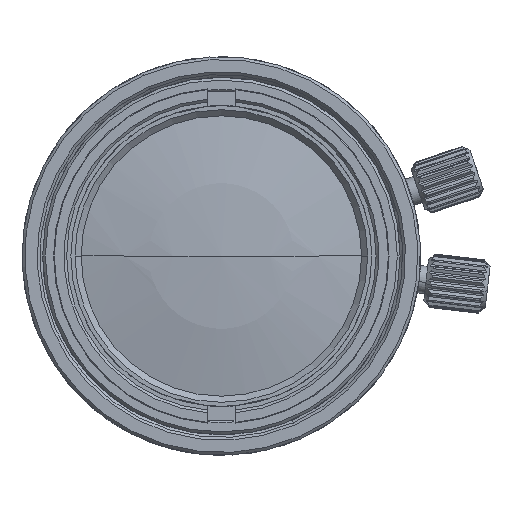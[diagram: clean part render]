
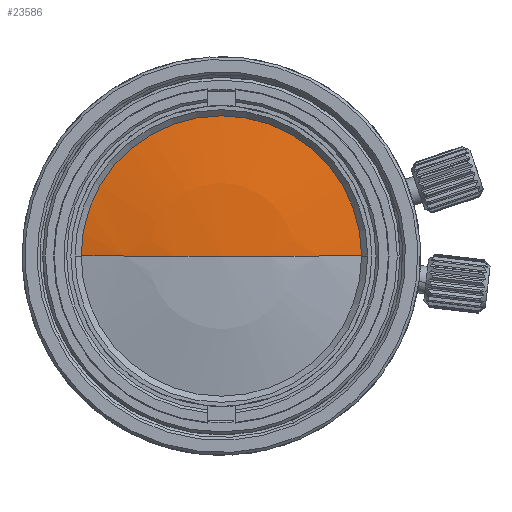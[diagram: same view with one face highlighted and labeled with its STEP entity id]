
A CAD part, left-side view. The second image highlights one B-rep face of the part: STEP entity #23586.
In plain terms, the highlighted spherical face has radius 51.573 mm.
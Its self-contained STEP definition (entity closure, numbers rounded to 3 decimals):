
#2636=CARTESIAN_POINT('',(-2.517,0.,0.));
#2637=DIRECTION('',(0.,0.,-1.));
#2638=DIRECTION('',(-1.,0.,0.));
#2639=AXIS2_PLACEMENT_3D('',#2636,#2637,#2638);
#2641=CARTESIAN_POINT('',(-53.005,0.,0.));
#2642=DIRECTION('',(1.,0.,0.));
#2643=DIRECTION('',(0.,1.,0.));
#2644=AXIS2_PLACEMENT_3D('',#2641,#2642,#2643);
#2646=CARTESIAN_POINT('',(-53.005,0.,0.));
#2647=DIRECTION('',(1.,0.,0.));
#2648=DIRECTION('',(0.,0.,1.));
#2649=AXIS2_PLACEMENT_3D('',#2646,#2647,#2648);
#2651=CARTESIAN_POINT('',(-2.517,0.,0.));
#2652=DIRECTION('',(0.,0.,1.));
#2653=DIRECTION('',(-1.,0.,0.));
#2654=AXIS2_PLACEMENT_3D('',#2651,#2652,#2653);
#19165=CARTESIAN_POINT('',(-53.005,10.52,
0.));
#19166=VERTEX_POINT('',#19165);
#19169=CARTESIAN_POINT('',(-53.005,-10.52,
0.));
#19170=VERTEX_POINT('',#19169);
#19171=CARTESIAN_POINT('',(-53.005,0.,
10.52));
#19172=VERTEX_POINT('',#19171);
#19173=CARTESIAN_POINT('',(-54.09,0.,0.));
#19174=VERTEX_POINT('',#19173);
#23573=CARTESIAN_POINT('',(-2.517,0.,0.));
#23574=DIRECTION('',(1.,0.,0.));
#23575=DIRECTION('',(0.,-1.,0.));
#23576=AXIS2_PLACEMENT_3D('',#23573,#23574,#23575);
#23577=SPHERICAL_SURFACE('',#23576,51.573);
#23579=ORIENTED_EDGE('',*,*,#23578,.F.);
#23581=ORIENTED_EDGE('',*,*,#23580,.T.);
#23582=ORIENTED_EDGE('',*,*,#23567,.T.);
#23583=ORIENTED_EDGE('',*,*,#23565,.T.);
#23584=EDGE_LOOP('',(#23579,#23581,#23582,#23583));
#23585=FACE_OUTER_BOUND('',#23584,.F.);
#23586=ADVANCED_FACE('',(#23585),#23577,.T.);
#2640=CIRCLE('',#2639,51.573);
#2645=CIRCLE('',#2644,10.52);
#2650=CIRCLE('',#2649,10.52);
#2655=CIRCLE('',#2654,51.573);
#23565=EDGE_CURVE('',#19172,#19170,#2650,.T.);
#23567=EDGE_CURVE('',#19166,#19172,#2645,.T.);
#23578=EDGE_CURVE('',#19174,#19170,#2655,.T.);
#23580=EDGE_CURVE('',#19174,#19166,#2640,.T.);
